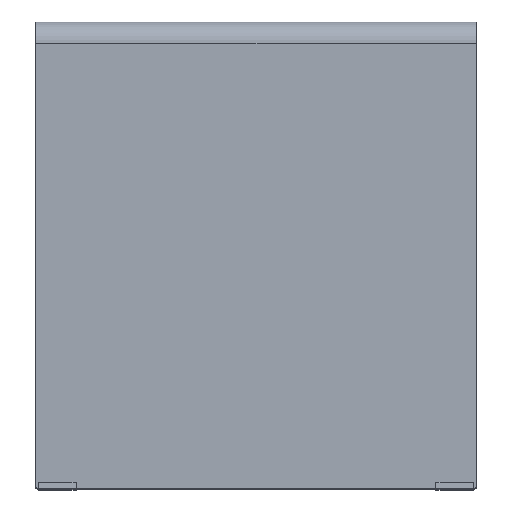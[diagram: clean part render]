
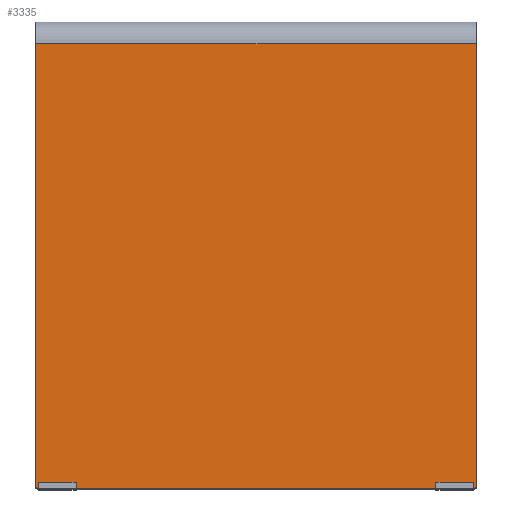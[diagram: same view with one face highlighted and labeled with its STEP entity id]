
A CAD part, left-side view. The second image highlights one B-rep face of the part: STEP entity #3335.
In plain terms, the highlighted planar face has unit normal (-1, 0, 0.009).
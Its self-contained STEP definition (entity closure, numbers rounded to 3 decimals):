
#73=CARTESIAN_POINT('',(-631.366,345.,-714.524));
#74=VERTEX_POINT('',#73);
#75=CARTESIAN_POINT('',(-631.366,285.,-714.524));
#76=VERTEX_POINT('',#75);
#77=CARTESIAN_POINT('',(-631.366,345.,-714.524));
#78=DIRECTION('',(0.0,-1.0,0.0));
#79=VECTOR('',#78,60.);
#80=LINE('',#77,#79);
#81=EDGE_CURVE('',#74,#76,#80,.T.);
#115=CARTESIAN_POINT('',(-631.367,345.,-714.576));
#116=VERTEX_POINT('',#115);
#117=CARTESIAN_POINT('',(-631.367,345.,-714.576));
#118=DIRECTION('',(0.009,0.0,1.));
#119=VECTOR('',#118,0.053);
#120=LINE('',#117,#119);
#121=EDGE_CURVE('',#116,#74,#120,.T.);
#441=CARTESIAN_POINT('',(-631.367,285.,-714.576));
#442=VERTEX_POINT('',#441);
#443=CARTESIAN_POINT('',(-631.367,285.,-714.576));
#444=DIRECTION('',(0.0,1.0,0.0));
#445=VECTOR('',#444,60.0);
#446=LINE('',#443,#445);
#447=EDGE_CURVE('',#442,#116,#446,.T.);
#671=CARTESIAN_POINT('',(-631.366,285.,-714.524));
#672=DIRECTION('',(-0.009,0.0,-1.));
#673=VECTOR('',#672,0.053);
#674=LINE('',#671,#673);
#675=EDGE_CURVE('',#76,#442,#674,.T.);
#708=CARTESIAN_POINT('',(-631.366,-285.,-714.524));
#709=VERTEX_POINT('',#708);
#710=CARTESIAN_POINT('',(-631.366,-345.0,-714.524));
#711=VERTEX_POINT('',#710);
#712=CARTESIAN_POINT('',(-631.366,-285.,-714.524));
#713=DIRECTION('',(0.0,-1.0,0.0));
#714=VECTOR('',#713,60.);
#715=LINE('',#712,#714);
#716=EDGE_CURVE('',#709,#711,#715,.T.);
#750=CARTESIAN_POINT('',(-631.367,-285.0,-714.576));
#751=VERTEX_POINT('',#750);
#752=CARTESIAN_POINT('',(-631.367,-285.0,-714.576));
#753=DIRECTION('',(0.009,0.0,1.));
#754=VECTOR('',#753,0.053);
#755=LINE('',#752,#754);
#756=EDGE_CURVE('',#751,#709,#755,.T.);
#1107=CARTESIAN_POINT('',(-631.367,-345.0,-714.576));
#1108=VERTEX_POINT('',#1107);
#1109=CARTESIAN_POINT('',(-631.367,-345.0,-714.576));
#1110=DIRECTION('',(0.0,1.0,0.0));
#1111=VECTOR('',#1110,60.0);
#1112=LINE('',#1109,#1111);
#1113=EDGE_CURVE('',#1108,#751,#1112,.T.);
#1306=CARTESIAN_POINT('',(-631.366,-345.0,-714.524));
#1307=DIRECTION('',(-0.009,0.0,-1.));
#1308=VECTOR('',#1307,0.053);
#1309=LINE('',#1306,#1308);
#1310=EDGE_CURVE('',#711,#1108,#1309,.T.);
#2613=CARTESIAN_POINT('',(-631.414,-349.0,-719.972));
#2614=VERTEX_POINT('',#2613);
#2631=CARTESIAN_POINT('',(-625.303,-349.0,-19.695));
#2632=VERTEX_POINT('',#2631);
#2639=CARTESIAN_POINT('',(-625.303,-349.0,-19.695));
#2640=DIRECTION('',(-0.009,0.0,-1.));
#2641=VECTOR('',#2640,700.304);
#2642=LINE('',#2639,#2641);
#2643=EDGE_CURVE('',#2632,#2614,#2642,.T.);
#2653=CARTESIAN_POINT('',(-631.449,-345.0,-723.972));
#2654=VERTEX_POINT('',#2653);
#2669=CARTESIAN_POINT('',(-631.414,-345.0,-719.972));
#2670=DIRECTION('',(1.,0.,-0.009));
#2671=DIRECTION('',(-0.006,-0.707,-0.707));
#2672=AXIS2_PLACEMENT_3D('',#2669,#2670,#2671);
#2673=CIRCLE('',#2672,4.);
#2674=EDGE_CURVE('',#2614,#2654,#2673,.T.);
#2684=CARTESIAN_POINT('',(-631.449,345.,-723.972));
#2685=VERTEX_POINT('',#2684);
#2701=CARTESIAN_POINT('',(-631.449,-345.0,-723.972));
#2702=DIRECTION('',(0.0,1.0,0.0));
#2703=VECTOR('',#2702,690.);
#2704=LINE('',#2701,#2703);
#2705=EDGE_CURVE('',#2654,#2685,#2704,.T.);
#2715=CARTESIAN_POINT('',(-631.414,349.,-719.972));
#2716=VERTEX_POINT('',#2715);
#2733=CARTESIAN_POINT('',(-631.414,345.,-719.972));
#2734=DIRECTION('',(1.,0.,-0.009));
#2735=DIRECTION('',(-0.006,0.707,-0.707));
#2736=AXIS2_PLACEMENT_3D('',#2733,#2734,#2735);
#2737=CIRCLE('',#2736,4.);
#2738=EDGE_CURVE('',#2685,#2716,#2737,.T.);
#2748=CARTESIAN_POINT('',(-625.303,349.,-19.695));
#2749=VERTEX_POINT('',#2748);
#2765=CARTESIAN_POINT('',(-631.414,349.0,-719.972));
#2766=DIRECTION('',(0.009,0.,1.));
#2767=VECTOR('',#2766,700.304);
#2768=LINE('',#2765,#2767);
#2769=EDGE_CURVE('',#2716,#2749,#2768,.T.);
#3305=CARTESIAN_POINT('',(-628.199,0.,-351.558));
#3306=DIRECTION('',(-1.,0.,0.009));
#3307=DIRECTION('',(0.009,0.,1.));
#3308=AXIS2_PLACEMENT_3D('',#3305,#3306,#3307);
#3309=PLANE('',#3308);
#3310=ORIENTED_EDGE('',*,*,#2769,.F.);
#3311=ORIENTED_EDGE('',*,*,#2738,.F.);
#3312=ORIENTED_EDGE('',*,*,#2705,.F.);
#3313=ORIENTED_EDGE('',*,*,#2674,.F.);
#3314=ORIENTED_EDGE('',*,*,#2643,.F.);
#3315=CARTESIAN_POINT('',(-625.303,-349.0,-19.695));
#3316=DIRECTION('',(0.0,1.0,0.0));
#3317=VECTOR('',#3316,698.0);
#3318=LINE('',#3315,#3317);
#3319=EDGE_CURVE('',#2632,#2749,#3318,.T.);
#3320=ORIENTED_EDGE('',*,*,#3319,.T.);
#3321=EDGE_LOOP('',(#3310,#3311,#3312,#3313,#3314,#3320));
#3322=FACE_OUTER_BOUND('',#3321,.T.);
#3323=ORIENTED_EDGE('',*,*,#121,.T.);
#3324=ORIENTED_EDGE('',*,*,#81,.T.);
#3325=ORIENTED_EDGE('',*,*,#675,.T.);
#3326=ORIENTED_EDGE('',*,*,#447,.T.);
#3327=EDGE_LOOP('',(#3323,#3324,#3325,#3326));
#3328=FACE_BOUND('',#3327,.T.);
#3329=ORIENTED_EDGE('',*,*,#756,.T.);
#3330=ORIENTED_EDGE('',*,*,#716,.T.);
#3331=ORIENTED_EDGE('',*,*,#1310,.T.);
#3332=ORIENTED_EDGE('',*,*,#1113,.T.);
#3333=EDGE_LOOP('',(#3329,#3330,#3331,#3332));
#3334=FACE_BOUND('',#3333,.T.);
#3335=ADVANCED_FACE('',(#3322,#3328,#3334),#3309,.T.);
